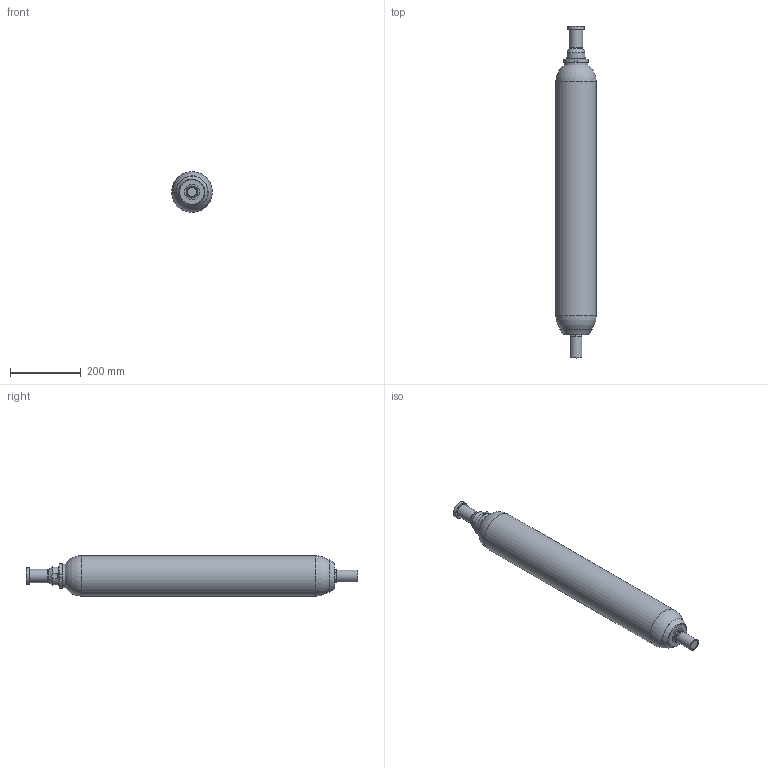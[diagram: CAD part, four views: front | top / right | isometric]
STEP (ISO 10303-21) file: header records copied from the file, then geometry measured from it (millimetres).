
FILE_DESCRIPTION((''),'2;1');
FILE_NAME('F:\STEP\ALLEGE\GAMME_EHVF_350&330&250bar\EHVF_5L_350_90.stp','2011-03-04T11:46:36',('laurent.simeon'),(''),'Autodesk Inventor 2011','Autodesk Inventor 2011','');
FILE_SCHEMA(('AUTOMOTIVE_DESIGN { 1 0 10303 214 1 1 1 1 }'));
Length unit declared in the file: millimetre
Products named in the file (39): EHVF_5L_350_90; CA108604-00190; BC108619-00220; BE100016-00200; BM108584-00200; CB108583-00200; EC100987-00200; EC102958-00200; BP102851-00200; BOUCHON DE PROTECTION; BOUCHON PLASTIQUE; VA108479-01626; VA108473-01626; VA108439-01600; VA108437-01600; PI108438-01600; RE100758-01200; JT104172-00023; JP102452-00026; ET106134-02600; BOUCHON DE VALVE; BO100759-02600; JP101164-00020; JOINT PLAT; PF108610-05200
Assembly tree (38 placements, depth 5):
  EHVF_5L_350_90
    CA108604-00190
      CA108604-00190
    BC108619-00220
      BE100016-00200
        BE100016-00200
      BM108584-00200
        CB108583-00200
          CB108583-00200
      EC100987-00200
        EC100987-00200
    EC102958-00200
      EC102958-00200
    BP102851-00200
      BOUCHON DE PROTECTION
      BOUCHON PLASTIQUE
    VA108479-01626
      VA108473-01626
        VA108439-01600
          VA108439-01600
        VA108437-01600
          VA108437-01600
        PI108438-01600
          PI108438-01600
        RE100758-01200
          RE100758-01200
        JT104172-00023
          JT104172-00023
        JP102452-00026
          JP102452-00026
        ET106134-02600
          ET106134-02600
      BOUCHON DE VALVE
        BO100759-02600
          BO100759-02600
        JP101164-00020
          JOINT PLAT
    PF108610-05200
      PF108610-05200
Bounding box: 114.3 x 935.7 x 114.3 mm (x, y, z)
Volume: 2063915.2 mm3; surface area: 607716.6 mm2
Topology: 23 solids, 23 shells, 677 faces, 1613 edges, 987 vertices
Faces by surface type: bspline 207, cylinder 183, plane 151, cone 75, torus 57, sphere 4
Full cylindrical faces by diameter (mm): 0.8 x1, 1.7 x1, 2 x1, 2.2 x1, 3.8 x1, 3.9 x1, 4.6 x1, 6.2 x1, 6.5 x1, 8 x1, 9 x3, 10 x1, 11 x6, 11.1 x1, 11.33 x1, 11.5 x1, 12.667 x1, 13 x1, 14.46 x1, 15.83 x1, 16 x2, 20.68 x1, 22 x2, 22.5 x1, 25 x1, 28.5 x2, 29.5 x1, 30.05 x1, 31 x1, 31.2 x1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
Entity records: 30055 total; most frequent: CARTESIAN_POINT 15421, ORIENTED_EDGE 2858, DIRECTION 2564, EDGE_CURVE 1429, AXIS2_PLACEMENT_3D 1128, VERTEX_POINT 928, EDGE_LOOP 877, FACE_OUTER_BOUND 676
